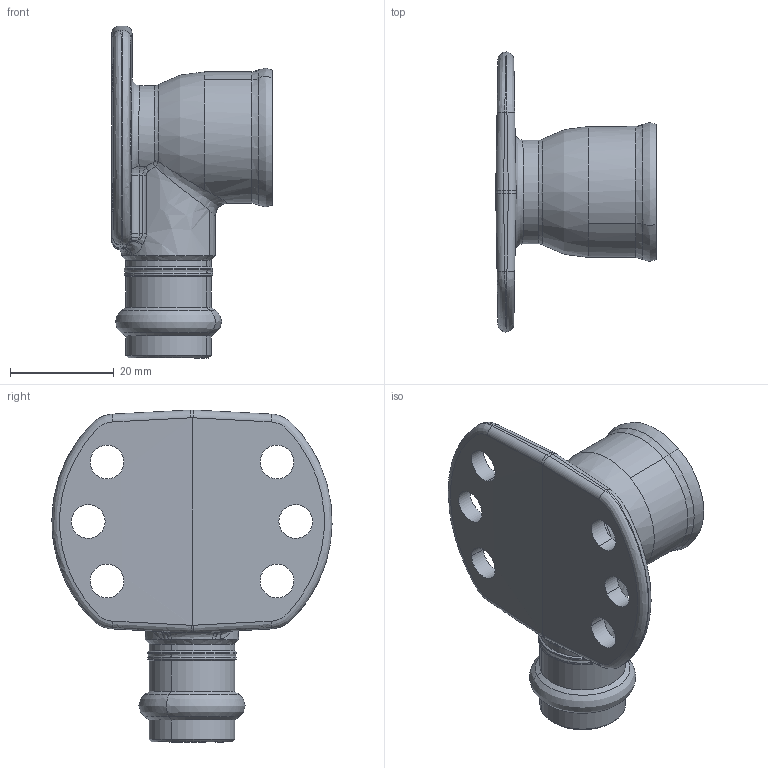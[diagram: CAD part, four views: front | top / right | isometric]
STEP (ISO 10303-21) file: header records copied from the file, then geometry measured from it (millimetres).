
FILE_DESCRIPTION(('STEP AP214'),'1');
FILE_NAME('1160618.stp','2025-08-11T07:51:03',('CAD-PIM'),('TransMagic R14'),'Spatial InterOp 3D',' ',' ');
FILE_SCHEMA(('AUTOMOTIVE_DESIGN { 1 0 10303 214 1 1 1 1 }'));
Length unit declared in the file: millimetre
Products named in the file (1): 1160618
Bounding box: 30.97 x 53.99 x 64 mm (x, y, z)
Volume: 20051.4 mm3; surface area: 9669.4 mm2
Topology: 1 solids, 1 shells, 132 faces, 314 edges, 186 vertices
Faces by surface type: bspline 132
Entity records: 10108 total; most frequent: CARTESIAN_POINT 4217, STYLED_ITEM 633, PRESENTATION_STYLE_ASSIGNMENT 633, COLOUR_RGB 633, ORIENTED_EDGE 628, EDGE_CURVE 314, CURVE_STYLE 314, DRAUGHTING_PRE_DEFINED_CURVE_FONT 314
